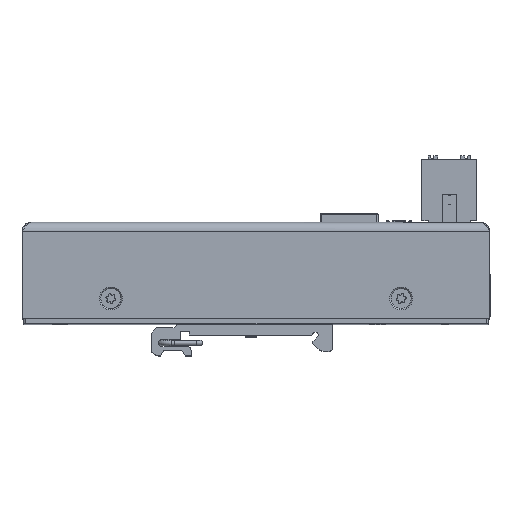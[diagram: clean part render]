
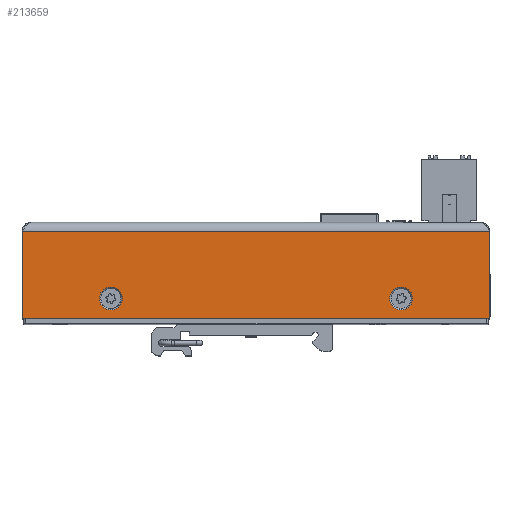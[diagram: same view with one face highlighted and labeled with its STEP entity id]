
A CAD part, top view. The second image highlights one B-rep face of the part: STEP entity #213659.
In plain terms, the highlighted planar face has unit normal (0, 0, 1).
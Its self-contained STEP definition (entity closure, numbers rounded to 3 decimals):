
#2629 = ORIENTED_EDGE ( 'NONE', *, *, #120491, .T. ) ;
#6325 = CARTESIAN_POINT ( 'NONE',  ( -62.937, 14.024, 44. ) ) ;
#10961 = DIRECTION ( 'NONE',  ( 0., -1., 0. ) ) ;
#14556 = AXIS2_PLACEMENT_3D ( 'NONE', #157370, #156204, #215666 ) ;
#14998 = VERTEX_POINT ( 'NONE', #134330 ) ;
#16032 = AXIS2_PLACEMENT_3D ( 'NONE', #63451, #28915, #137254 ) ;
#16471 = ORIENTED_EDGE ( 'NONE', *, *, #206458, .F. ) ;
#21680 = CARTESIAN_POINT ( 'NONE',  ( -63.437, 37.524, 44. ) ) ;
#21956 = VERTEX_POINT ( 'NONE', #156135 ) ;
#28915 = DIRECTION ( 'NONE',  ( 0., 0., -1. ) ) ;
#30902 = DIRECTION ( 'NONE',  ( 0., -1., 0. ) ) ;
#33264 = CARTESIAN_POINT ( 'NONE',  ( -63.437, 37.524, 44. ) ) ;
#35234 = AXIS2_PLACEMENT_3D ( 'NONE', #101430, #157331, #10961 ) ;
#39296 = VECTOR ( 'NONE', #30902, 1000. ) ;
#43168 = PLANE ( 'NONE',  #35234 ) ;
#55154 = CIRCLE ( 'NONE', #116000, 0.5 ) ;
#55441 = ORIENTED_EDGE ( 'NONE', *, *, #64208, .T. ) ;
#55683 = CARTESIAN_POINT ( 'NONE',  ( 1.063, 37.524, 44. ) ) ;
#63451 = CARTESIAN_POINT ( 'NONE',  ( 41.063, 19.024, 44. ) ) ;
#64208 = EDGE_CURVE ( 'NONE', #75239, #75239, #158986, .T. ) ;
#67741 = ORIENTED_EDGE ( 'NONE', *, *, #216249, .T. ) ;
#72094 = CIRCLE ( 'NONE', #190189, 0.5 ) ;
#72781 = CARTESIAN_POINT ( 'NONE',  ( 65.563, 37.524, 44. ) ) ;
#75239 = VERTEX_POINT ( 'NONE', #147867 ) ;
#81312 = DIRECTION ( 'NONE',  ( 0., -1., 0. ) ) ;
#87737 = EDGE_CURVE ( 'NONE', #14998, #192936, #55154, .T. ) ;
#92745 = CARTESIAN_POINT ( 'NONE',  ( -60.937, 13.524, 44. ) ) ;
#93506 = VERTEX_POINT ( 'NONE', #21680 ) ;
#95775 = CIRCLE ( 'NONE', #16032, 3.15 ) ;
#101430 = CARTESIAN_POINT ( 'NONE',  ( 1.063, 40.024, 44. ) ) ;
#102824 = VERTEX_POINT ( 'NONE', #195023 ) ;
#104186 = EDGE_CURVE ( 'NONE', #14998, #102824, #130791, .T. ) ;
#105380 = VECTOR ( 'NONE', #204558, 1000. ) ;
#110887 = DIRECTION ( 'NONE',  ( 0., -1., 0. ) ) ;
#114739 = DIRECTION ( 'NONE',  ( 0., 0., 1. ) ) ;
#116000 = AXIS2_PLACEMENT_3D ( 'NONE', #153922, #189636, #150436 ) ;
#120491 = EDGE_CURVE ( 'NONE', #151057, #151057, #95775, .T. ) ;
#128320 = DIRECTION ( 'NONE',  ( -1., 0., 0. ) ) ;
#130791 = LINE ( 'NONE', #92745, #105380 ) ;
#131247 = VECTOR ( 'NONE', #128320, 1000. ) ;
#134330 = CARTESIAN_POINT ( 'NONE',  ( 65.063, 13.524, 44. ) ) ;
#137254 = DIRECTION ( 'NONE',  ( 0., -1., 0. ) ) ;
#140434 = LINE ( 'NONE', #33264, #39296 ) ;
#146178 = LINE ( 'NONE', #55683, #131247 ) ;
#147867 = CARTESIAN_POINT ( 'NONE',  ( -38.937, 15.874, 44. ) ) ;
#148690 = VECTOR ( 'NONE', #110887, 1000. ) ;
#150436 = DIRECTION ( 'NONE',  ( 0., -1., 0. ) ) ;
#151057 = VERTEX_POINT ( 'NONE', #203475 ) ;
#151378 = EDGE_CURVE ( 'NONE', #21956, #102824, #72094, .T. ) ;
#153922 = CARTESIAN_POINT ( 'NONE',  ( 65.063, 14.024, 44. ) ) ;
#156135 = CARTESIAN_POINT ( 'NONE',  ( -63.437, 14.024, 44. ) ) ;
#156204 = DIRECTION ( 'NONE',  ( 0., 0., -1. ) ) ;
#157331 = DIRECTION ( 'NONE',  ( 0., 0., 1. ) ) ;
#157370 = CARTESIAN_POINT ( 'NONE',  ( -38.937, 19.024, 44. ) ) ;
#158986 = CIRCLE ( 'NONE', #14556, 3.15 ) ;
#160475 = ORIENTED_EDGE ( 'NONE', *, *, #151378, .T. ) ;
#162448 = ORIENTED_EDGE ( 'NONE', *, *, #104186, .F. ) ;
#163259 = LINE ( 'NONE', #72781, #148690 ) ;
#167693 = EDGE_CURVE ( 'NONE', #181879, #93506, #146178, .T. ) ;
#168173 = FACE_BOUND ( 'NONE', #215351, .T. ) ;
#169334 = FACE_BOUND ( 'NONE', #170789, .T. ) ;
#170789 = EDGE_LOOP ( 'NONE', ( #55441 ) ) ;
#177428 = ORIENTED_EDGE ( 'NONE', *, *, #167693, .T. ) ;
#181879 = VERTEX_POINT ( 'NONE', #213371 ) ;
#189636 = DIRECTION ( 'NONE',  ( 0., 0., 1. ) ) ;
#190189 = AXIS2_PLACEMENT_3D ( 'NONE', #6325, #114739, #81312 ) ;
#190718 = FACE_OUTER_BOUND ( 'NONE', #193871, .T. ) ;
#192936 = VERTEX_POINT ( 'NONE', #235461 ) ;
#193871 = EDGE_LOOP ( 'NONE', ( #162448, #204178, #16471, #177428, #67741, #160475 ) ) ;
#195023 = CARTESIAN_POINT ( 'NONE',  ( -62.937, 13.524, 44. ) ) ;
#203475 = CARTESIAN_POINT ( 'NONE',  ( 41.063, 15.874, 44. ) ) ;
#204178 = ORIENTED_EDGE ( 'NONE', *, *, #87737, .T. ) ;
#204558 = DIRECTION ( 'NONE',  ( -1., 0., 0. ) ) ;
#206458 = EDGE_CURVE ( 'NONE', #181879, #192936, #163259, .T. ) ;
#213371 = CARTESIAN_POINT ( 'NONE',  ( 65.563, 37.524, 44. ) ) ;
#213659 = ADVANCED_FACE ( 'NONE', ( #168173, #169334, #190718 ), #43168, .T. ) ;
#215351 = EDGE_LOOP ( 'NONE', ( #2629 ) ) ;
#215666 = DIRECTION ( 'NONE',  ( 0., -1., 0. ) ) ;
#216249 = EDGE_CURVE ( 'NONE', #93506, #21956, #140434, .T. ) ;
#235461 = CARTESIAN_POINT ( 'NONE',  ( 65.563, 14.024, 44. ) ) ;
